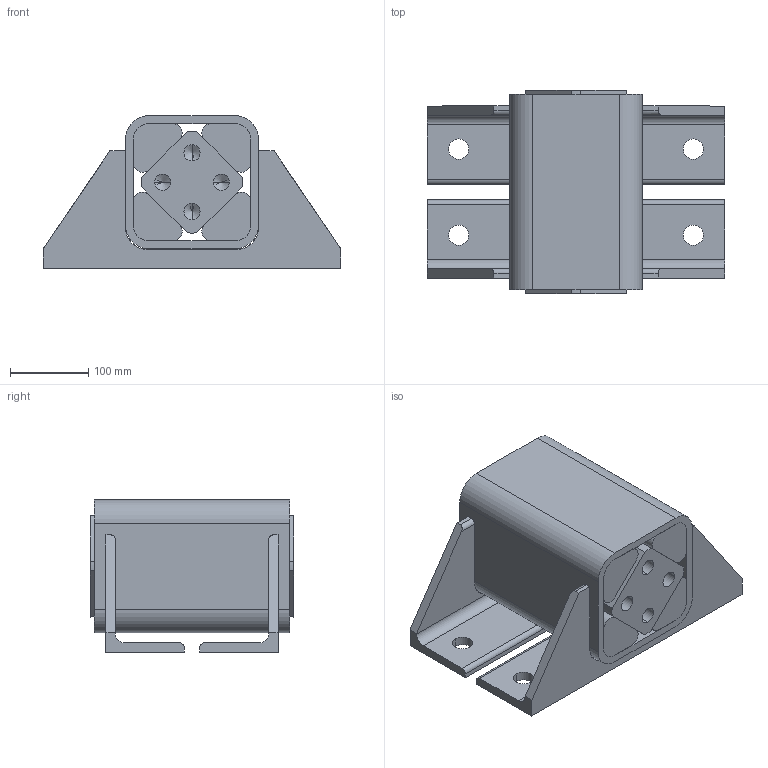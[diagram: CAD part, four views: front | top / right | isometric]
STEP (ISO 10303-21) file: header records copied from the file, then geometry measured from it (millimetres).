
FILE_DESCRIPTION((''),'2;1');
FILE_NAME('\\rostaofc\data\uw\save\daten_f\Normprogramm 3D\Gummifederelemente\DW-A100x250_01101010.stp','2004-12-08T10:00:14',('uw'),(''),'Autodesk Inventor 8','Autodesk Inventor 8','');
FILE_SCHEMA(('AUTOMOTIVE_DESIGN { 1 0 10303 214 1 1 1 1 }'));
Length unit declared in the file: millimetre
Products named in the file (5): ROSTA-Gummifederelement DW-A100x250; 2_4_4814-002; 3_4_5216-001; Support zu Typ DW-A100; 2_4_4814-003
Assembly tree (8 placements, depth 2):
  ROSTA-Gummifederelement DW-A100x250
    2_4_4814-002
    3_4_5216-001
    Support zu Typ DW-A100  x2
    2_4_4814-003  x4
Bounding box: 380 x 260 x 195 mm (x, y, z)
Volume: 8027536.2 mm3; surface area: 939303.4 mm2
Topology: 8 solids, 8 shells, 142 faces, 358 edges, 224 vertices
Faces by surface type: plane 66, cylinder 44, bspline 24, cone 8
Entity records: 3138 total; most frequent: CARTESIAN_POINT 811, DIRECTION 475, ORIENTED_EDGE 442, EDGE_CURVE 221, AXIS2_PLACEMENT_3D 168, VERTEX_POINT 144, VECTOR 139, LINE 139
